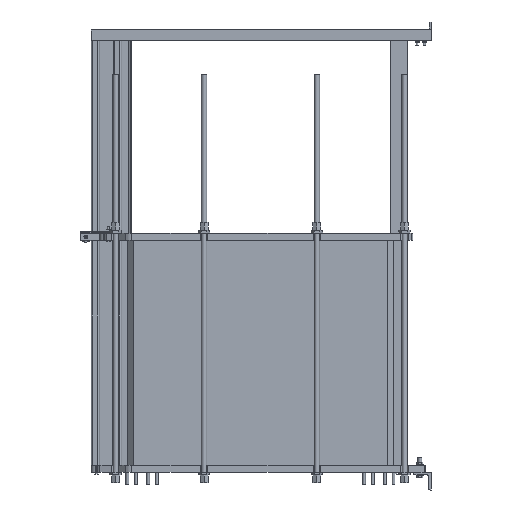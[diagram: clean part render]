
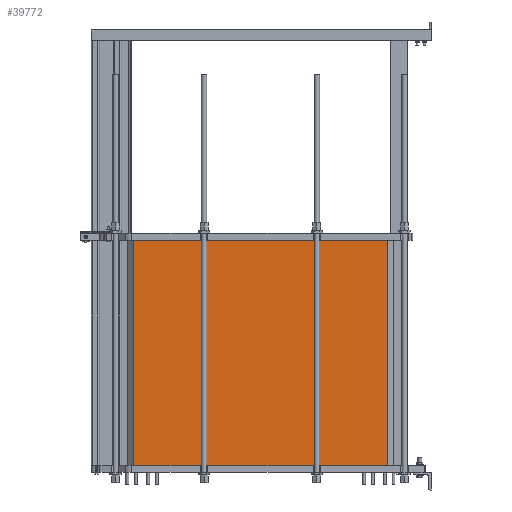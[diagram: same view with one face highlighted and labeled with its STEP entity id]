
A CAD part, left-side view. The second image highlights one B-rep face of the part: STEP entity #39772.
In plain terms, the highlighted planar face has unit normal (-1, 0, 0).
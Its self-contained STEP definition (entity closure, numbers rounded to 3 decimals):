
#21680=CARTESIAN_POINT('',(-187.5,705.0,1312.0));
#21681=VERTEX_POINT('',#21680);
#21688=CARTESIAN_POINT('',(-187.5,-731.0,1312.0));
#21689=VERTEX_POINT('',#21688);
#21690=CARTESIAN_POINT('',(-187.5,-731.0,1312.0));
#21691=DIRECTION('',(0.0,1.0,0.0));
#21692=VECTOR('',#21691,1436.0);
#21693=LINE('',#21690,#21692);
#21694=EDGE_CURVE('',#21689,#21681,#21693,.T.);
#39731=CARTESIAN_POINT('',(-187.5,-731.0,40.0));
#39732=VERTEX_POINT('',#39731);
#39733=CARTESIAN_POINT('',(-187.5,-731.0,40.0));
#39734=DIRECTION('',(0.0,0.0,1.0));
#39735=VECTOR('',#39734,1272.0);
#39736=LINE('',#39733,#39735);
#39737=EDGE_CURVE('',#39732,#21689,#39736,.T.);
#39749=CARTESIAN_POINT('',(-187.5,-731.0,40.0));
#39750=DIRECTION('',(-1.0,0.0,0.0));
#39751=DIRECTION('',(0.0,0.0,1.0));
#39752=AXIS2_PLACEMENT_3D('',#39749,#39750,#39751);
#39753=PLANE('',#39752);
#39754=ORIENTED_EDGE('',*,*,#21694,.T.);
#39755=CARTESIAN_POINT('',(-187.5,705.0,40.0));
#39756=VERTEX_POINT('',#39755);
#39757=CARTESIAN_POINT('',(-187.5,705.0,40.0));
#39758=DIRECTION('',(0.0,0.0,1.0));
#39759=VECTOR('',#39758,1272.0);
#39760=LINE('',#39757,#39759);
#39761=EDGE_CURVE('',#39756,#21681,#39760,.T.);
#39762=ORIENTED_EDGE('',*,*,#39761,.F.);
#39763=CARTESIAN_POINT('',(-187.5,-731.0,40.0));
#39764=DIRECTION('',(0.0,1.0,0.0));
#39765=VECTOR('',#39764,1436.0);
#39766=LINE('',#39763,#39765);
#39767=EDGE_CURVE('',#39732,#39756,#39766,.T.);
#39768=ORIENTED_EDGE('',*,*,#39767,.F.);
#39769=ORIENTED_EDGE('',*,*,#39737,.T.);
#39770=EDGE_LOOP('',(#39754,#39762,#39768,#39769));
#39771=FACE_OUTER_BOUND('',#39770,.T.);
#39772=ADVANCED_FACE('',(#39771),#39753,.T.);
